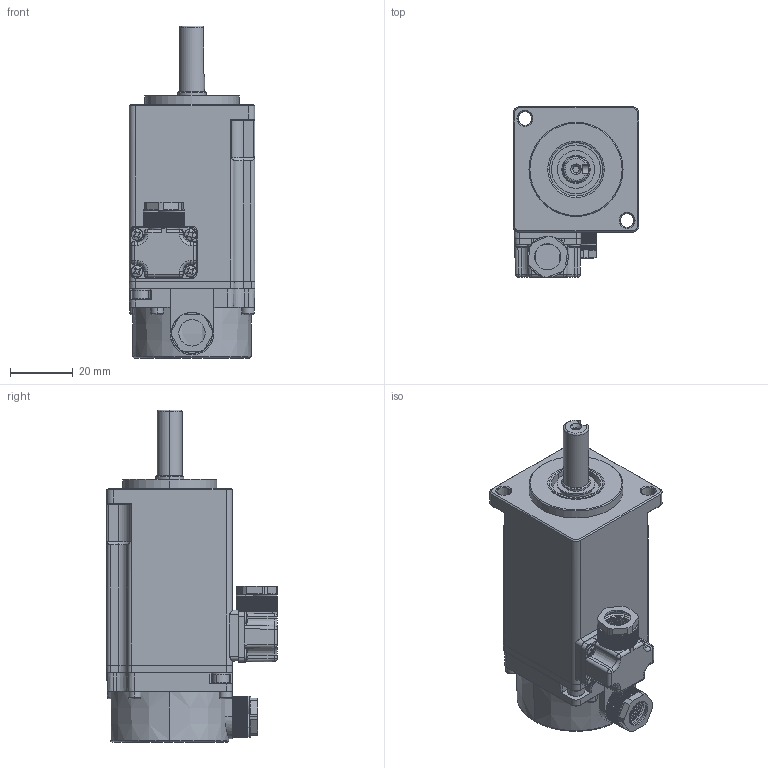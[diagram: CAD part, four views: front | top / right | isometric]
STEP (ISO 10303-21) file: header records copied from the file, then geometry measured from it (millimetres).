
FILE_DESCRIPTION (( 'STEP AP203' ), '1' );
FILE_NAME ('G3系列40ST-100W标准电机三维图.STEP', '2022-09-17T01:02:12', ( '微软用户' ), ( '微软中国' ), 'SwSTEP 2.0', 'SolidWorks 2016', '' );
FILE_SCHEMA (( 'CONFIG_CONTROL_DESIGN' ));
Length unit declared in the file: millimetre
Products named in the file (1): G3系列40ST-100W标准电机三维图
Bounding box: 40.09 x 54.34 x 105.8 mm (x, y, z)
Volume: 51873.5 mm3; surface area: 42990.3 mm2
Topology: 18 solids, 18 shells, 2326 faces, 5666 edges, 3426 vertices
Faces by surface type: plane 1427, cylinder 422, cone 359, torus 60, bspline 34, sphere 24
Entity records: 68141 total; most frequent: CARTESIAN_POINT 12967, DIRECTION 11873, ORIENTED_EDGE 11272, EDGE_CURVE 5636, AXIS2_PLACEMENT_3D 4135, LINE 3603, VECTOR 3603, VERTEX_POINT 3426
